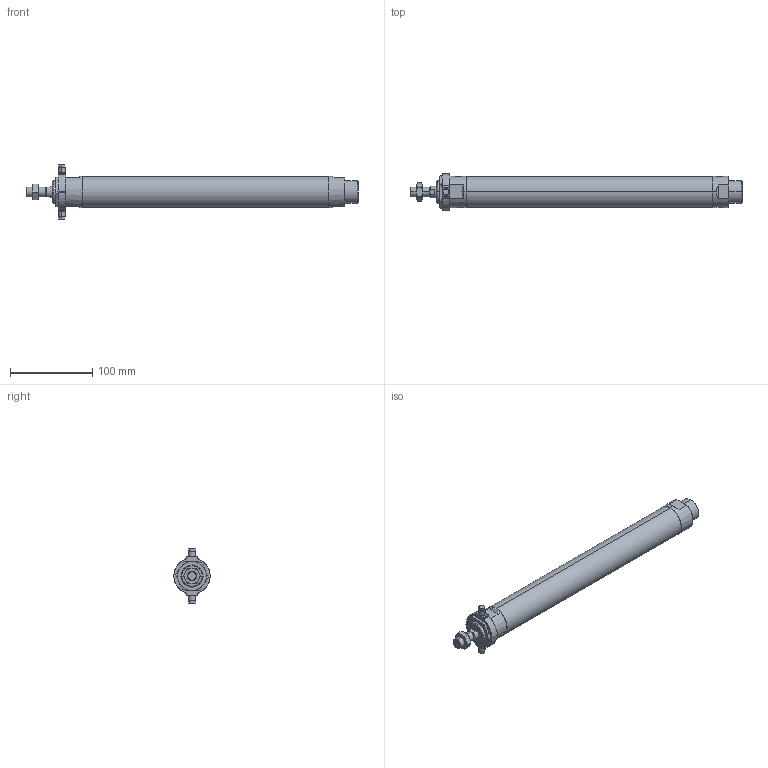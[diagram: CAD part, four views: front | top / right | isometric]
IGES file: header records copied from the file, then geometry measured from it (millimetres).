
Start section: SolidWorks IGES file using analytic representation for surfaces
Global section: file name: C:\Users\Toshiba\Desktop\J#2-32-250-T.IGS; native system: SolidWorks 2014; preprocessor: SolidWorks 2014; author: Toshiba; date: 160308.155038; units: millimetre
Bounding box: 403 x 44 x 66 mm (x, y, z)
Surface area: 54721.7 mm2 (no closed solid volume)
Topology: 0 solids, 0 shells, 133 faces, 2156 edges, 2152 vertices
Faces by surface type: bspline 67, revolution 66
